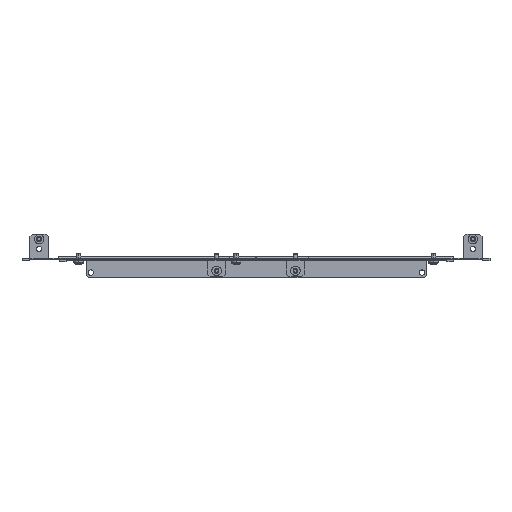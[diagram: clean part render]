
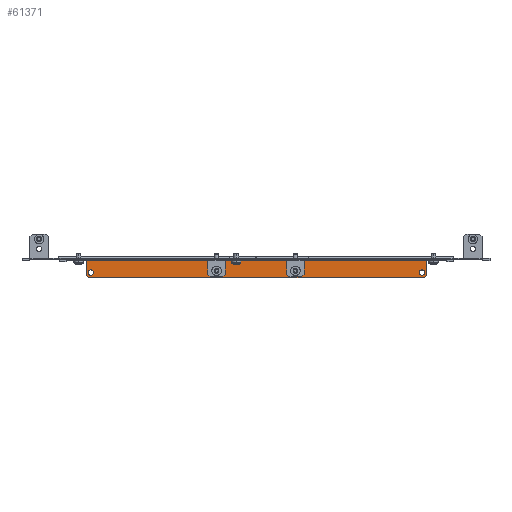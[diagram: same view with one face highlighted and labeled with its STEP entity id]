
A CAD part, left-side view. The second image highlights one B-rep face of the part: STEP entity #61371.
In plain terms, the highlighted planar face has unit normal (-1, 0, 0).
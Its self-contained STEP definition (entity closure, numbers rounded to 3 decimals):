
#59 = VERTEX_POINT ( 'NONE', #6304 ) ;
#808 = CARTESIAN_POINT ( 'NONE',  ( 314.25, 216., -4. ) ) ;
#1133 = CARTESIAN_POINT ( 'NONE',  ( 314.25, -210., -18.25 ) ) ;
#1832 = ORIENTED_EDGE ( 'NONE', *, *, #25600, .F. ) ;
#3945 = EDGE_LOOP ( 'NONE', ( #26473, #4003 ) ) ;
#3966 = AXIS2_PLACEMENT_3D ( 'NONE', #27407, #51489, #42903 ) ;
#3981 = AXIS2_PLACEMENT_3D ( 'NONE', #36010, #60729, #4751 ) ;
#4003 = ORIENTED_EDGE ( 'NONE', *, *, #65000, .T. ) ;
#4059 = CARTESIAN_POINT ( 'NONE',  ( 314.25, -118.25, -119.75 ) ) ;
#4565 = ORIENTED_EDGE ( 'NONE', *, *, #39106, .T. ) ;
#4751 = DIRECTION ( 'NONE',  ( 0., 0., -1. ) ) ;
#5236 = AXIS2_PLACEMENT_3D ( 'NONE', #1133, #7332, #16246 ) ;
#5622 = CARTESIAN_POINT ( 'NONE',  ( 314.25, -216., -25. ) ) ;
#6304 = CARTESIAN_POINT ( 'NONE',  ( 314.25, -216., -3. ) ) ;
#6342 = CARTESIAN_POINT ( 'NONE',  ( 314.25, -210., -21.7 ) ) ;
#6359 = PLANE ( 'NONE',  #3966 ) ;
#6544 = CARTESIAN_POINT ( 'NONE',  ( 314.25, -216., -4. ) ) ;
#7327 = FACE_BOUND ( 'NONE', #3945, .T. ) ;
#7332 = DIRECTION ( 'NONE',  ( 1., 0., 0. ) ) ;
#7631 = ORIENTED_EDGE ( 'NONE', *, *, #41141, .F. ) ;
#9495 = DIRECTION ( 'NONE',  ( 1., 0., 0. ) ) ;
#9618 = LINE ( 'NONE', #4059, #33202 ) ;
#10166 = VECTOR ( 'NONE', #32542, 1000. ) ;
#10260 = EDGE_CURVE ( 'NONE', #31668, #11256, #39921, .T. ) ;
#10951 = CARTESIAN_POINT ( 'NONE',  ( 314.25, 216., -1.5 ) ) ;
#11256 = VERTEX_POINT ( 'NONE', #17635 ) ;
#11601 = DIRECTION ( 'NONE',  ( 1., 0., 0. ) ) ;
#11611 = ORIENTED_EDGE ( 'NONE', *, *, #40487, .F. ) ;
#13384 = VERTEX_POINT ( 'NONE', #46809 ) ;
#13518 = VECTOR ( 'NONE', #45881, 1000. ) ;
#14640 = VECTOR ( 'NONE', #59252, 1000. ) ;
#14679 = AXIS2_PLACEMENT_3D ( 'NONE', #19684, #9495, #29906 ) ;
#15567 = LINE ( 'NONE', #10951, #13518 ) ;
#15811 = VERTEX_POINT ( 'NONE', #22941 ) ;
#16246 = DIRECTION ( 'NONE',  ( 0., 0., -1. ) ) ;
#16271 = CARTESIAN_POINT ( 'NONE',  ( 314.25, 216., -3. ) ) ;
#16653 = VERTEX_POINT ( 'NONE', #26127 ) ;
#17574 = ORIENTED_EDGE ( 'NONE', *, *, #36765, .T. ) ;
#17635 = CARTESIAN_POINT ( 'NONE',  ( 314.25, -210., -14.8 ) ) ;
#18576 = ORIENTED_EDGE ( 'NONE', *, *, #45495, .T. ) ;
#19534 = VERTEX_POINT ( 'NONE', #808 ) ;
#19684 = CARTESIAN_POINT ( 'NONE',  ( 314.25, -210., -18.25 ) ) ;
#21403 = DIRECTION ( 'NONE',  ( 0., 0., -1. ) ) ;
#22214 = VERTEX_POINT ( 'NONE', #35713 ) ;
#22941 = CARTESIAN_POINT ( 'NONE',  ( 314.25, 210., -21.7 ) ) ;
#24123 = CIRCLE ( 'NONE', #14679, 3.45 ) ;
#24529 = EDGE_CURVE ( 'NONE', #22214, #59, #32223, .T. ) ;
#25600 = EDGE_CURVE ( 'NONE', #13384, #52026, #50710, .T. ) ;
#25807 = EDGE_LOOP ( 'NONE', ( #54864, #18576 ) ) ;
#26127 = CARTESIAN_POINT ( 'NONE',  ( 314.25, 210., -14.8 ) ) ;
#26473 = ORIENTED_EDGE ( 'NONE', *, *, #56595, .T. ) ;
#27407 = CARTESIAN_POINT ( 'NONE',  ( 314.25, 0., -1.5 ) ) ;
#27849 = EDGE_CURVE ( 'NONE', #34383, #19534, #55157, .T. ) ;
#29906 = DIRECTION ( 'NONE',  ( 0., 0., -1. ) ) ;
#29923 = CARTESIAN_POINT ( 'NONE',  ( 314.25, 213., -25. ) ) ;
#29931 = CARTESIAN_POINT ( 'NONE',  ( 314.25, -216., -22. ) ) ;
#30057 = LINE ( 'NONE', #50157, #60672 ) ;
#30462 = ORIENTED_EDGE ( 'NONE', *, *, #32070, .F. ) ;
#31668 = VERTEX_POINT ( 'NONE', #6342 ) ;
#32027 = FACE_BOUND ( 'NONE', #25807, .T. ) ;
#32070 = EDGE_CURVE ( 'NONE', #22214, #49144, #61597, .T. ) ;
#32223 = LINE ( 'NONE', #6544, #10166 ) ;
#32542 = DIRECTION ( 'NONE',  ( 0., 0., 1. ) ) ;
#33202 = VECTOR ( 'NONE', #34963, 1000. ) ;
#34270 = ORIENTED_EDGE ( 'NONE', *, *, #24529, .T. ) ;
#34282 = VECTOR ( 'NONE', #55663, 1000. ) ;
#34383 = VERTEX_POINT ( 'NONE', #35291 ) ;
#34963 = DIRECTION ( 'NONE',  ( 0., -0.707, 0.707 ) ) ;
#35291 = CARTESIAN_POINT ( 'NONE',  ( 314.25, 216., -22. ) ) ;
#35322 = DIRECTION ( 'NONE',  ( 0., -0.707, -0.707 ) ) ;
#35713 = CARTESIAN_POINT ( 'NONE',  ( 314.25, -216., -4. ) ) ;
#36010 = CARTESIAN_POINT ( 'NONE',  ( 314.25, 210., -18.25 ) ) ;
#36393 = VECTOR ( 'NONE', #45613, 1000. ) ;
#36765 = EDGE_CURVE ( 'NONE', #13384, #49144, #9618, .T. ) ;
#36820 = ORIENTED_EDGE ( 'NONE', *, *, #27849, .F. ) ;
#36960 = CARTESIAN_POINT ( 'NONE',  ( 314.25, 210., -18.25 ) ) ;
#39106 = EDGE_CURVE ( 'NONE', #34383, #52026, #30057, .T. ) ;
#39921 = CIRCLE ( 'NONE', #5236, 3.45 ) ;
#40487 = EDGE_CURVE ( 'NONE', #19534, #49405, #15567, .T. ) ;
#41141 = EDGE_CURVE ( 'NONE', #49405, #59, #44418, .T. ) ;
#42780 = EDGE_LOOP ( 'NONE', ( #1832, #17574, #30462, #34270, #7631, #11611, #36820, #4565 ) ) ;
#42903 = DIRECTION ( 'NONE',  ( 0., 1., 0. ) ) ;
#44372 = VECTOR ( 'NONE', #21403, 1000. ) ;
#44418 = LINE ( 'NONE', #54306, #14640 ) ;
#45495 = EDGE_CURVE ( 'NONE', #11256, #31668, #24123, .T. ) ;
#45613 = DIRECTION ( 'NONE',  ( 0., 0., 1. ) ) ;
#45881 = DIRECTION ( 'NONE',  ( 0., 0., 1. ) ) ;
#46809 = CARTESIAN_POINT ( 'NONE',  ( 314.25, -213., -25. ) ) ;
#49144 = VERTEX_POINT ( 'NONE', #29931 ) ;
#49405 = VERTEX_POINT ( 'NONE', #59527 ) ;
#50157 = CARTESIAN_POINT ( 'NONE',  ( 314.25, 118.25, -119.75 ) ) ;
#50710 = LINE ( 'NONE', #60929, #34282 ) ;
#50893 = AXIS2_PLACEMENT_3D ( 'NONE', #36960, #11601, #57389 ) ;
#51489 = DIRECTION ( 'NONE',  ( -1., 0., 0. ) ) ;
#52026 = VERTEX_POINT ( 'NONE', #29923 ) ;
#52342 = CIRCLE ( 'NONE', #3981, 3.45 ) ;
#54306 = CARTESIAN_POINT ( 'NONE',  ( 314.25, 0., -3. ) ) ;
#54864 = ORIENTED_EDGE ( 'NONE', *, *, #10260, .T. ) ;
#55157 = LINE ( 'NONE', #16271, #36393 ) ;
#55663 = DIRECTION ( 'NONE',  ( 0., 1., 0. ) ) ;
#56595 = EDGE_CURVE ( 'NONE', #15811, #16653, #61388, .T. ) ;
#57389 = DIRECTION ( 'NONE',  ( 0., 0., -1. ) ) ;
#59252 = DIRECTION ( 'NONE',  ( 0., -1., 0. ) ) ;
#59527 = CARTESIAN_POINT ( 'NONE',  ( 314.25, 216., -3. ) ) ;
#60672 = VECTOR ( 'NONE', #35322, 1000. ) ;
#60729 = DIRECTION ( 'NONE',  ( 1., 0., 0. ) ) ;
#60929 = CARTESIAN_POINT ( 'NONE',  ( 314.25, 216., -25. ) ) ;
#61371 = ADVANCED_FACE ( 'NONE', ( #32027, #7327, #61692 ), #6359, .T. ) ;
#61388 = CIRCLE ( 'NONE', #50893, 3.45 ) ;
#61597 = LINE ( 'NONE', #5622, #44372 ) ;
#61692 = FACE_OUTER_BOUND ( 'NONE', #42780, .T. ) ;
#65000 = EDGE_CURVE ( 'NONE', #16653, #15811, #52342, .T. ) ;
